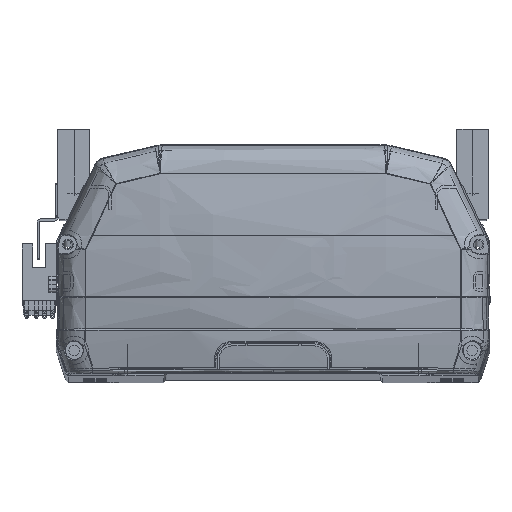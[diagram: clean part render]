
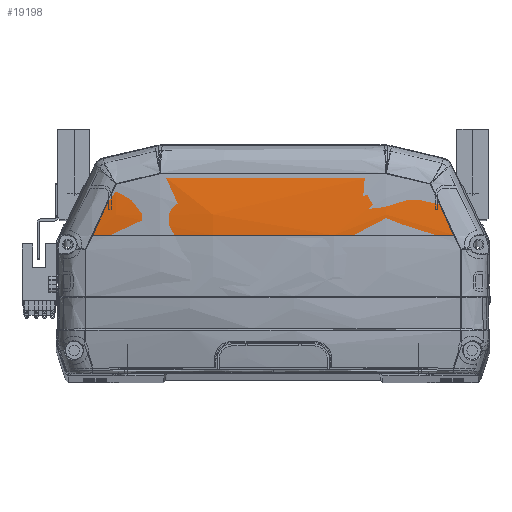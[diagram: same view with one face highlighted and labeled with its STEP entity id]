
A CAD part, top view. The second image highlights one B-rep face of the part: STEP entity #19198.
In plain terms, the highlighted toroidal (fillet/blend) face has major radius 312.5 mm and minor radius 572.4 mm.
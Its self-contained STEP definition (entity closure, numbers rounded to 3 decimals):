
#2456 = EDGE_CURVE ( 'NONE', #41429, #30579, #15382, .T. ) ;
#2490 = DIRECTION ( 'NONE',  ( 0., 0., -1. ) ) ;
#2821 = CARTESIAN_POINT ( 'NONE',  ( 0., 55.096, -260. ) ) ;
#3607 = B_SPLINE_CURVE_WITH_KNOTS ( 'NONE', 3,
 ( #21873, #29061, #18853, #28788 ),
 .UNSPECIFIED., .F., .F.,
 ( 4, 4 ),
 ( 0., 0.018 ),
 .UNSPECIFIED. ) ;
#3867 = CARTESIAN_POINT ( 'NONE',  ( -64.813, 68.545, -4.11 ) ) ;
#4093 = CARTESIAN_POINT ( 'NONE',  ( 55.929, 76.66, -3.711 ) ) ;
#4158 = CARTESIAN_POINT ( 'NONE',  ( -44.331, 79.443, -2.97 ) ) ;
#4512 = CARTESIAN_POINT ( 'NONE',  ( 71.027, 55.096, -4.524 ) ) ;
#5096 = ORIENTED_EDGE ( 'NONE', *, *, #39155, .F. ) ;
#5283 = B_SPLINE_CURVE_WITH_KNOTS ( 'NONE', 3,
 ( #4158, #27246, #13747, #7375, #17190, #27403 ),
 .UNSPECIFIED., .F., .F.,
 ( 4, 2, 4 ),
 ( 0., 0.044, 0.089 ),
 .UNSPECIFIED. ) ;
#6589 = CARTESIAN_POINT ( 'NONE',  ( -71.027, 55.096, -4.524 ) ) ;
#7365 = CARTESIAN_POINT ( 'NONE',  ( -67.917, 61.816, -4.208 ) ) ;
#7375 = CARTESIAN_POINT ( 'NONE',  ( 14.805, 79.361, -1.235 ) ) ;
#7400 = CARTESIAN_POINT ( 'NONE',  ( 44.331, 79.443, -2.97 ) ) ;
#8930 = B_SPLINE_CURVE_WITH_KNOTS ( 'NONE', 3,
 ( #36746, #13825, #4093, #10789 ),
 .UNSPECIFIED., .F., .F.,
 ( 4, 4 ),
 ( 0., 0.018 ),
 .UNSPECIFIED. ) ;
#10149 = TOROIDAL_SURFACE ( 'NONE', #14552, -312.5, 572.4 ) ;
#10279 = CARTESIAN_POINT ( 'NONE',  ( -71.027, 55.096, -4.524 ) ) ;
#10656 = FACE_OUTER_BOUND ( 'NONE', #25374, .T. ) ;
#10789 = CARTESIAN_POINT ( 'NONE',  ( 61.718, 75.278, -4.232 ) ) ;
#11305 = EDGE_CURVE ( 'NONE', #12658, #22733, #33437, .T. ) ;
#12658 = VERTEX_POINT ( 'NONE', #6589 ) ;
#13747 = CARTESIAN_POINT ( 'NONE',  ( -14.788, 79.361, -1.235 ) ) ;
#13825 = CARTESIAN_POINT ( 'NONE',  ( 50.132, 78.049, -3.29 ) ) ;
#13957 = VERTEX_POINT ( 'NONE', #41131 ) ;
#14105 = AXIS2_PLACEMENT_3D ( 'NONE', #24216, #14514, #27759 ) ;
#14514 = DIRECTION ( 'NONE',  ( 0., 1., 0. ) ) ;
#14552 = AXIS2_PLACEMENT_3D ( 'NONE', #2821, #18847, #2490 ) ;
#15382 = B_SPLINE_CURVE_WITH_KNOTS ( 'NONE', 3,
 ( #22523, #42763, #26496, #39531 ),
 .UNSPECIFIED., .F., .F.,
 ( 4, 4 ),
 ( 0., 0.022 ),
 .UNSPECIFIED. ) ;
#16779 = EDGE_CURVE ( 'NONE', #22733, #13957, #3607, .T. ) ;
#17190 = CARTESIAN_POINT ( 'NONE',  ( 29.579, 79.389, -1.814 ) ) ;
#18843 = CIRCLE ( 'NONE', #14105, 572.4 ) ;
#18847 = DIRECTION ( 'NONE',  ( 1., 0., 0. ) ) ;
#18853 = CARTESIAN_POINT ( 'NONE',  ( -50.132, 78.049, -3.29 ) ) ;
#19198 = ADVANCED_FACE ( 'NONE', ( #10656 ), #10149, .T. ) ;
#19726 = VERTEX_POINT ( 'NONE', #7400 ) ;
#19954 = ORIENTED_EDGE ( 'NONE', *, *, #35494, .F. ) ;
#21711 = ORIENTED_EDGE ( 'NONE', *, *, #2456, .F. ) ;
#21873 = CARTESIAN_POINT ( 'NONE',  ( -61.718, 75.278, -4.232 ) ) ;
#22517 = ORIENTED_EDGE ( 'NONE', *, *, #33402, .T. ) ;
#22523 = CARTESIAN_POINT ( 'NONE',  ( 61.718, 75.278, -4.232 ) ) ;
#22733 = VERTEX_POINT ( 'NONE', #30236 ) ;
#24216 = CARTESIAN_POINT ( 'NONE',  ( 0., 55.096, -572.5 ) ) ;
#25374 = EDGE_LOOP ( 'NONE', ( #31023, #22517, #21711, #5096, #19954, #29612 ) ) ;
#26496 = CARTESIAN_POINT ( 'NONE',  ( 67.917, 61.809, -4.135 ) ) ;
#27246 = CARTESIAN_POINT ( 'NONE',  ( -29.579, 79.39, -1.814 ) ) ;
#27403 = CARTESIAN_POINT ( 'NONE',  ( 44.331, 79.443, -2.97 ) ) ;
#27759 = DIRECTION ( 'NONE',  ( 0., 0., 1. ) ) ;
#28788 = CARTESIAN_POINT ( 'NONE',  ( -44.331, 79.443, -2.97 ) ) ;
#29061 = CARTESIAN_POINT ( 'NONE',  ( -55.929, 76.661, -3.711 ) ) ;
#29612 = ORIENTED_EDGE ( 'NONE', *, *, #16779, .F. ) ;
#30236 = CARTESIAN_POINT ( 'NONE',  ( -61.718, 75.278, -4.232 ) ) ;
#30579 = VERTEX_POINT ( 'NONE', #4512 ) ;
#31023 = ORIENTED_EDGE ( 'NONE', *, *, #11305, .F. ) ;
#33402 = EDGE_CURVE ( 'NONE', #12658, #30579, #18843, .T. ) ;
#33437 = B_SPLINE_CURVE_WITH_KNOTS ( 'NONE', 3,
 ( #10279, #33619, #7365, #3867, #40426, #39979 ),
 .UNSPECIFIED., .F., .F.,
 ( 4, 2, 4 ),
 ( 0.006, 0.017, 0.029 ),
 .UNSPECIFIED. ) ;
#33619 = CARTESIAN_POINT ( 'NONE',  ( -69.472, 58.454, -4.329 ) ) ;
#35494 = EDGE_CURVE ( 'NONE', #13957, #19726, #5283, .T. ) ;
#36746 = CARTESIAN_POINT ( 'NONE',  ( 44.331, 79.443, -2.97 ) ) ;
#39155 = EDGE_CURVE ( 'NONE', #19726, #41429, #8930, .T. ) ;
#39531 = CARTESIAN_POINT ( 'NONE',  ( 71.027, 55.096, -4.524 ) ) ;
#39979 = CARTESIAN_POINT ( 'NONE',  ( -61.718, 75.278, -4.232 ) ) ;
#40426 = CARTESIAN_POINT ( 'NONE',  ( -63.264, 71.911, -4.135 ) ) ;
#41131 = CARTESIAN_POINT ( 'NONE',  ( -44.331, 79.443, -2.97 ) ) ;
#41364 = CARTESIAN_POINT ( 'NONE',  ( 61.718, 75.278, -4.232 ) ) ;
#41429 = VERTEX_POINT ( 'NONE', #41364 ) ;
#42763 = CARTESIAN_POINT ( 'NONE',  ( 64.811, 68.545, -4.037 ) ) ;
